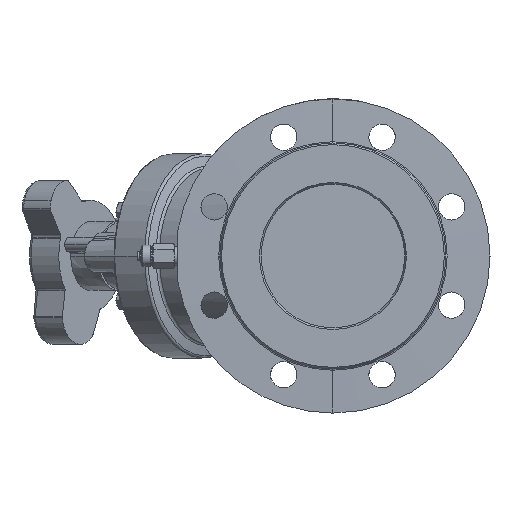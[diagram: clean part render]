
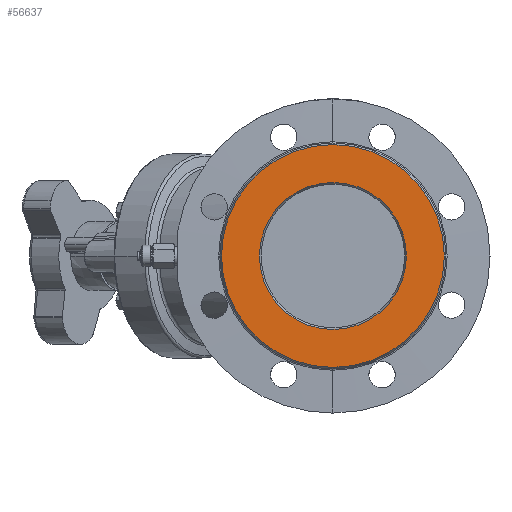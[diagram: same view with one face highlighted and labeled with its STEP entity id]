
A CAD part, left-side view. The second image highlights one B-rep face of the part: STEP entity #56637.
In plain terms, the highlighted planar face has unit normal (-1, 0, 0).
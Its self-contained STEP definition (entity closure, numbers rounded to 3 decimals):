
#827 = DIRECTION ( 'NONE',  ( -1., 0., 0. ) ) ;
#6504 = DIRECTION ( 'NONE',  ( 0., 0., 1. ) ) ;
#6591 = DIRECTION ( 'NONE',  ( 0., 0., 1. ) ) ;
#8472 = EDGE_LOOP ( 'NONE', ( #71967, #76665 ) ) ;
#9931 = AXIS2_PLACEMENT_3D ( 'NONE', #76479, #10930, #39931 ) ;
#10930 = DIRECTION ( 'NONE',  ( -1., 0., 0. ) ) ;
#12807 = VERTEX_POINT ( 'NONE', #45634 ) ;
#14806 = DIRECTION ( 'NONE',  ( 0., 0., 1. ) ) ;
#15894 = EDGE_CURVE ( 'NONE', #51740, #12807, #37640, .T. ) ;
#17800 = AXIS2_PLACEMENT_3D ( 'NONE', #25478, #31479, #43575 ) ;
#17821 = CARTESIAN_POINT ( 'NONE',  ( -90., 0., 0. ) ) ;
#20527 = DIRECTION ( 'NONE',  ( 1., 0., 0. ) ) ;
#24037 = CIRCLE ( 'NONE', #73153, 51.443 ) ;
#24784 = CIRCLE ( 'NONE', #46268, 78. ) ;
#25478 = CARTESIAN_POINT ( 'NONE',  ( -90., 0., 0. ) ) ;
#26609 = EDGE_CURVE ( 'NONE', #75681, #62131, #24037, .T. ) ;
#29706 = DIRECTION ( 'NONE',  ( -1., 0., 0. ) ) ;
#31479 = DIRECTION ( 'NONE',  ( 1., 0., 0. ) ) ;
#34418 = AXIS2_PLACEMENT_3D ( 'NONE', #17821, #827, #6591 ) ;
#35977 = CARTESIAN_POINT ( 'NONE',  ( -90., 0., 0. ) ) ;
#37640 = CIRCLE ( 'NONE', #34418, 78. ) ;
#39931 = DIRECTION ( 'NONE',  ( 0., 0., 1. ) ) ;
#41798 = EDGE_CURVE ( 'NONE', #62131, #75681, #51113, .T. ) ;
#43575 = DIRECTION ( 'NONE',  ( 0., 0., 1. ) ) ;
#43976 = CARTESIAN_POINT ( 'NONE',  ( -90., 0., -51.443 ) ) ;
#45634 = CARTESIAN_POINT ( 'NONE',  ( -90., 0., 78. ) ) ;
#46268 = AXIS2_PLACEMENT_3D ( 'NONE', #35977, #29706, #6504 ) ;
#46369 = ORIENTED_EDGE ( 'NONE', *, *, #15894, .T. ) ;
#47860 = CARTESIAN_POINT ( 'NONE',  ( -90., 0., 51.443 ) ) ;
#51113 = CIRCLE ( 'NONE', #17800, 51.443 ) ;
#51687 = PLANE ( 'NONE',  #9931 ) ;
#51740 = VERTEX_POINT ( 'NONE', #68394 ) ;
#56637 = ADVANCED_FACE ( 'NONE', ( #57713, #70848 ), #51687, .T. ) ;
#57713 = FACE_OUTER_BOUND ( 'NONE', #60078, .T. ) ;
#60078 = EDGE_LOOP ( 'NONE', ( #46369, #64662 ) ) ;
#62131 = VERTEX_POINT ( 'NONE', #43976 ) ;
#64662 = ORIENTED_EDGE ( 'NONE', *, *, #72282, .T. ) ;
#68394 = CARTESIAN_POINT ( 'NONE',  ( -90., 0., -78. ) ) ;
#70848 = FACE_BOUND ( 'NONE', #8472, .T. ) ;
#71967 = ORIENTED_EDGE ( 'NONE', *, *, #26609, .T. ) ;
#72282 = EDGE_CURVE ( 'NONE', #12807, #51740, #24784, .T. ) ;
#73153 = AXIS2_PLACEMENT_3D ( 'NONE', #73560, #20527, #14806 ) ;
#73560 = CARTESIAN_POINT ( 'NONE',  ( -90., 0., 0. ) ) ;
#75681 = VERTEX_POINT ( 'NONE', #47860 ) ;
#76479 = CARTESIAN_POINT ( 'NONE',  ( -90., 120., 0. ) ) ;
#76665 = ORIENTED_EDGE ( 'NONE', *, *, #41798, .T. ) ;
